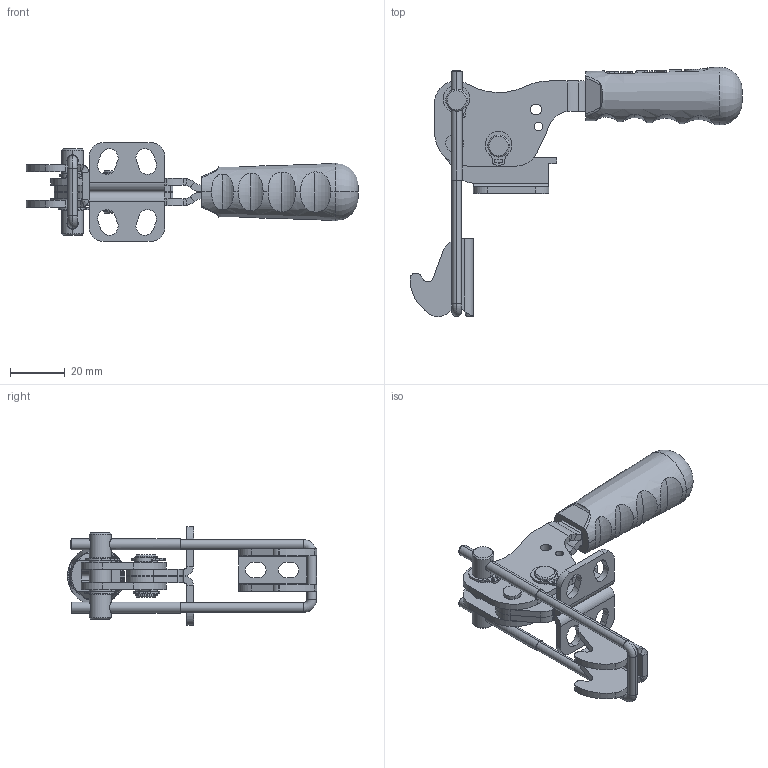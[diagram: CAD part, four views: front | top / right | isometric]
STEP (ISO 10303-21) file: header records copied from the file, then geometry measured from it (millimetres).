
FILE_DESCRIPTION (( 'STEP AP203' ), '1' );
FILE_NAME ('13205_Y.STEP', '2022-11-29T14:18:35', ( '' ), ( '' ), 'SwSTEP 2.0', 'SolidWorks 2023', '' );
FILE_SCHEMA (( 'CONFIG_CONTROL_DESIGN' ));
Length unit declared in the file: millimetre
Products named in the file (12): Ø8xM4 U Kanca_Varsayılan; DIN 471 Ø8 Segman_Circlip DIN 471 - 8 x 0.8; dikey kullanım cap 8 mili_Varsayılan; Aynalama13105 Gövde_Varsayılan; C55_Yeni_Tutamak_Varsayılan; Aynalama13105 Hareket Kolu_Varsayılan; 13105 Gövde_Varsayılan; 13105 Hareket Kolu_Varsayılan; M4x40_U_KANCA_Varsayılan; M4_KK_2; 4x12_5_PERÇİN_Varsayılan; 13205_Y
Assembly tree (14 placements, depth 2):
  13205_Y
    13105 Gövde_Varsayılan
    13105 Hareket Kolu_Varsayılan
    Aynalama13105 Hareket Kolu_Varsayılan
    Aynalama13105 Gövde_Varsayılan
    4x12_5_PERÇİN_Varsayılan
    Ø8xM4 U Kanca_Varsayılan
    DIN 471 Ø8 Segman_Circlip DIN 471 - 8 x 0.8  x4
    C55_Yeni_Tutamak_Varsayılan
    M4x40_U_KANCA_Varsayılan
    dikey kullanım cap 8 mili_Varsayılan
    M4_KK_2
Bounding box: 121.05 x 90.91 x 36.06 mm (x, y, z)
Volume: 32473.4 mm3; surface area: 25552.1 mm2
Topology: 14 solids, 14 shells, 599 faces, 1538 edges, 985 vertices
Faces by surface type: plane 314, cylinder 238, torus 20, bspline 14, cone 13
Entity records: 18718 total; most frequent: CARTESIAN_POINT 4669, DIRECTION 2686, ORIENTED_EDGE 2626, EDGE_CURVE 1313, AXIS2_PLACEMENT_3D 940, VERTEX_POINT 835, VECTOR 806, LINE 806
